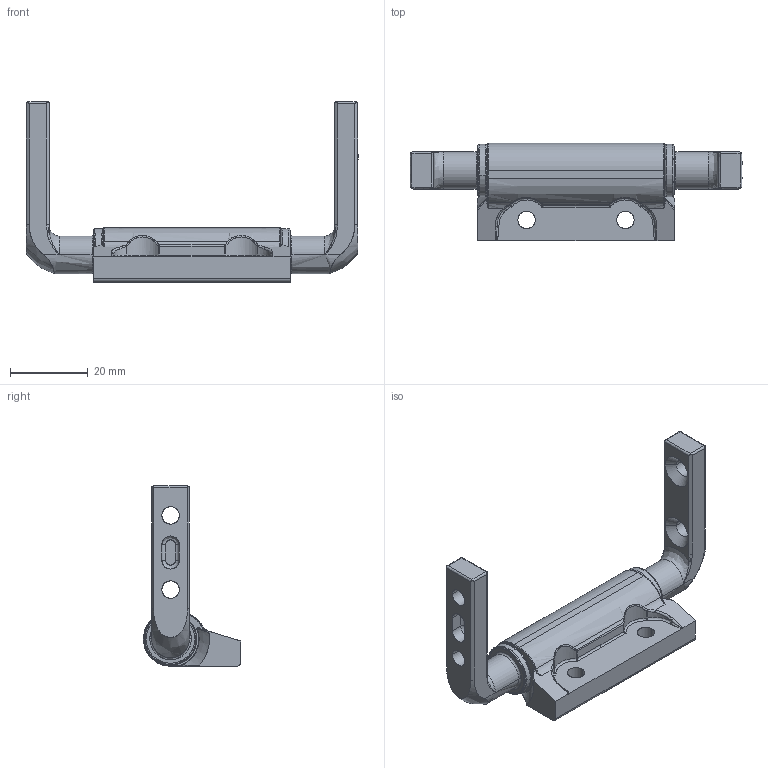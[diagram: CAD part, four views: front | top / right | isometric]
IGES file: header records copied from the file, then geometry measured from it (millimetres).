
Start section: SolidWorks IGES file using analytic representation for surfaces
Global section: file name: G:\RELEASED\FINALS\11-XXX PHK Hinge\PHK 90 Dual.IGS; native system: SolidWorks 2016; preprocessor: SolidWorks 2016; author: hmanderson; date: 160323.092639; units: inch
Bounding box: 85.34 x 25.03 x 46.37 mm (x, y, z)
Surface area: 12663.2 mm2 (no closed solid volume)
Topology: 0 solids, 0 shells, 803 faces, 7388 edges, 7364 vertices
Faces by surface type: bspline 457, revolution 346
